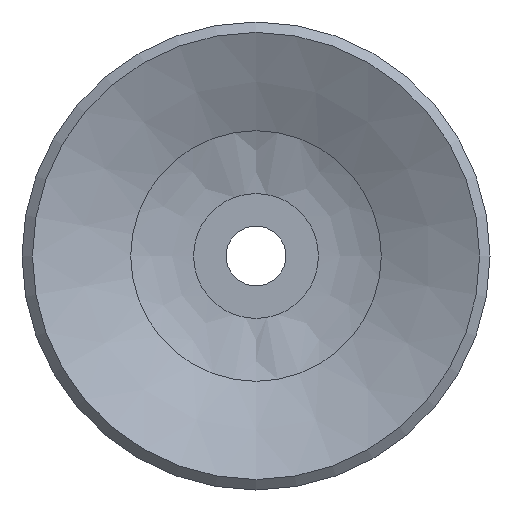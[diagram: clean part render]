
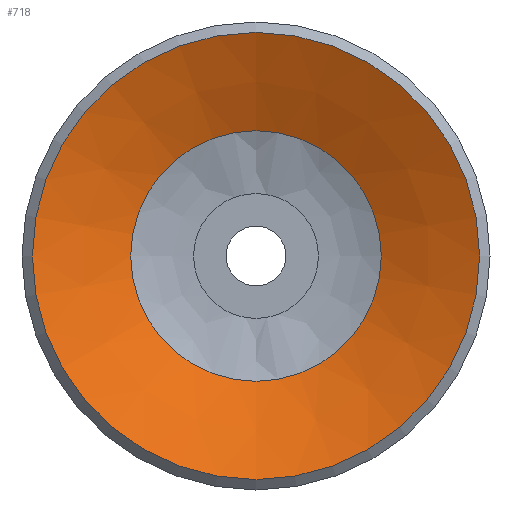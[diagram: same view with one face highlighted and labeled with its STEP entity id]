
A CAD part, front view. The second image highlights one B-rep face of the part: STEP entity #718.
In plain terms, the highlighted conical face has half-angle 65.056 degrees and reference radius 3.2 mm.
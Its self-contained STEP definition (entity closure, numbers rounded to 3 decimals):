
#718=ADVANCED_FACE('',(#1075,#1076),#1077,.F.);
#1075=FACE_BOUND('',#1479,.T.);
#1076=FACE_OUTER_BOUND('',#1480,.T.);
#1077=CONICAL_SURFACE('',#1481,3.2,1.135);
#1479=EDGE_LOOP('',(#2356));
#1480=EDGE_LOOP('',(#2357));
#1481=AXIS2_PLACEMENT_3D('',#2358,#2359,#2360);
#2356=ORIENTED_EDGE('',*,*,#2615,.T.);
#2357=ORIENTED_EDGE('',*,*,#2616,.T.);
#2358=CARTESIAN_POINT('',(0.0,7.896,0.0));
#2359=DIRECTION('',(-0.0,-1.0,0.));
#2360=DIRECTION('',(0.0,0.,-1.0));
#2615=EDGE_CURVE('',#3006,#3006,#3007,.T.);
#2616=EDGE_CURVE('',#3008,#3008,#3009,.T.);
#3006=VERTEX_POINT('',#3644);
#3007=CIRCLE('',#3645,4.203);
#3008=VERTEX_POINT('',#3646);
#3009=CIRCLE('',#3647,7.5);
#3644=CARTESIAN_POINT('',(0.0,7.43,-4.203));
#3645=AXIS2_PLACEMENT_3D('',#4038,#4039,#4040);
#3646=CARTESIAN_POINT('',(0.0,5.896,-7.5));
#3647=AXIS2_PLACEMENT_3D('',#4041,#4042,#4043);
#4038=CARTESIAN_POINT('',(0.0,7.43,0.0));
#4039=DIRECTION('',(0.0,1.0,0.));
#4040=DIRECTION('',(0.0,0.,-1.0));
#4041=CARTESIAN_POINT('',(0.0,5.896,0.0));
#4042=DIRECTION('',(0.0,-1.0,0.));
#4043=DIRECTION('',(0.0,0.,-1.0));
